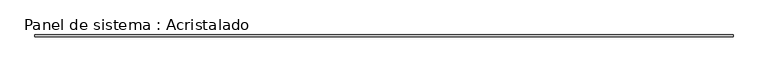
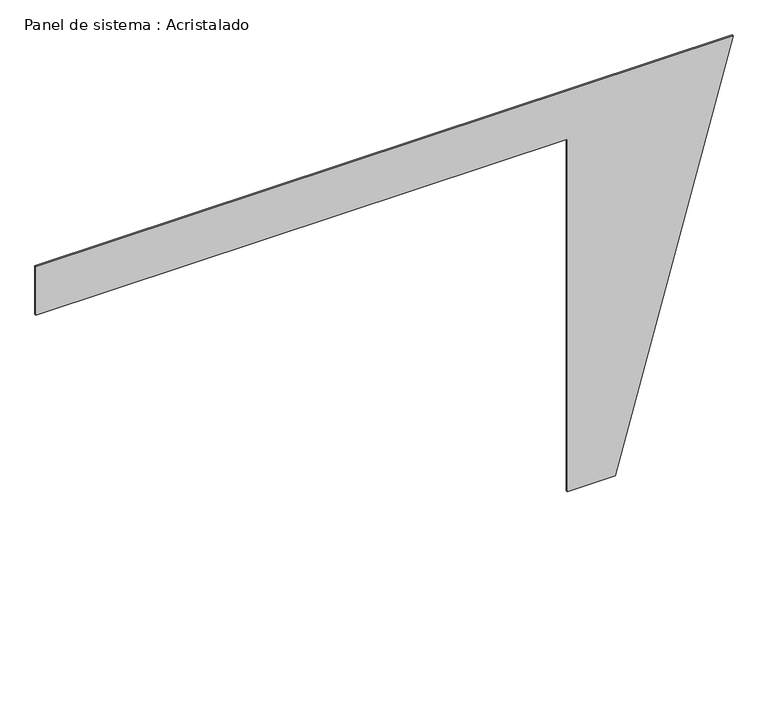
"""IFC4 building model written with IfcOpenShell, lengths in millimetres: plate geometry, Panel de sistema : Acristalado."""

import ifcopenshell
import ifcopenshell.guid

model = None  # the IFC model being written
_history = None  # IfcOwnerHistory: only IFC2X3 demands one
_inside = {}  # id of a spatial element -> (the spatial element, [elements in it])
_under = {}  # id of a project, library or spatial element -> (it, [spatial elements below it])
_declared = {}  # id of a project -> (the project, [libraries it declares])
_typed = {}  # id of a type object -> (the type object, [elements of that type])
_made_of = {}  # id of a material, layer set ... -> (it, [elements and type objects made of it])


def new_model(schema):
    """Start an empty IFC model of exactly this schema.

    Asked for "IFC4X3", IfcOpenShell would pick the latest addendum, in which some entities
    have other attributes; the version numbers below select the first issue.
    IFC2X3 requires an IfcOwnerHistory on every rooted entity: one is made here for all.
    """
    global model, _history
    if schema == "IFC4X3":
        model = ifcopenshell.file(schema_version=(4, 3, 0, 0))
    else:
        model = ifcopenshell.file(schema=schema)
    _inside.clear()
    _under.clear()
    _declared.clear()
    _typed.clear()
    _made_of.clear()
    _history = None
    if model.schema == "IFC2X3":
        org = make("IfcOrganization", Name="unknown")
        user = make(
            "IfcPersonAndOrganization",
            ThePerson=make("IfcPerson", FamilyName="unknown"),
            TheOrganization=org,
        )
        app = make(
            "IfcApplication",
            ApplicationDeveloper=org,
            Version="unknown",
            ApplicationFullName="unknown",
            ApplicationIdentifier="unknown",
        )
        _history = make(
            "IfcOwnerHistory",
            OwningUser=user,
            OwningApplication=app,
            ChangeAction="ADDED",
            CreationDate=0,
        )
    return model


def make(cls, **values):
    """One entity of the class cls with the attributes given. An attribute that is None is left unset."""
    return model.create_entity(
        cls, **{name: value for name, value in values.items() if value is not None}
    )


def rooted(cls, **values):
    """An entity with a GlobalId (a new one), such as an element, a storey or a relation."""
    return make(cls, GlobalId=ifcopenshell.guid.new(), OwnerHistory=_history, **values)


def si_unit(unit_type, name, prefix=None):
    """IfcSIUnit, for example si_unit("LENGTHUNIT", "METRE", prefix="MILLI")."""
    return make("IfcSIUnit", UnitType=unit_type, Prefix=prefix, Name=name)


def assignment(units):
    """IfcUnitAssignment: the units of a project."""
    return None if units is None else make("IfcUnitAssignment", Units=units)


def point(xyz):
    """IfcCartesianPoint."""
    return None if xyz is None else make("IfcCartesianPoint", Coordinates=xyz)


def direction(xyz):
    """IfcDirection."""
    return None if xyz is None else make("IfcDirection", DirectionRatios=xyz)


def frame(location, z_axis=None, x_axis=None):
    """IfcAxis2Placement3D, a coordinate frame: its origin and axes. An axis left out is left unset."""
    return make(
        "IfcAxis2Placement3D",
        Location=point(location),
        Axis=direction(z_axis),
        RefDirection=direction(x_axis),
    )


def origin():
    """The frame at (0, 0, 0) with its axes left unset."""
    return frame((0.0, 0.0, 0.0))


def place(relative_to, where):
    """IfcLocalPlacement: puts the frame where relative to a parent placement (None: the world)."""
    return make(
        "IfcLocalPlacement", PlacementRelTo=relative_to, RelativePlacement=where
    )


def context(
    kind, dimensions, precision=None, world=None, true_north=None, identifier=None
):
    """IfcGeometricRepresentationContext, for example the 3D "Model" context."""
    return make(
        "IfcGeometricRepresentationContext",
        ContextIdentifier=identifier,
        ContextType=kind,
        CoordinateSpaceDimension=dimensions,
        Precision=precision,
        WorldCoordinateSystem=world,
        TrueNorth=true_north,
    )


def project(units=None, contexts=None):
    """IfcProject with its units and contexts."""
    return rooted(
        "IfcProject",
        Name="project",
        RepresentationContexts=contexts,
        UnitsInContext=assignment(units),
    )


def spatial(cls, under=None, at=None, **own):
    """A site, building, storey or space (cls), placed at a placement, below another one or the project."""
    s = rooted(cls, ObjectPlacement=at, **own)
    if under is not None:
        _under.setdefault(under.id(), (under, []))[1].append(s)
    return s


def polyline(points):
    """IfcPolyline through the points."""
    return make("IfcPolyline", Points=[point(p) for p in points])


def outline(outer, holes=None, kind="AREA"):
    """IfcArbitraryClosedProfileDef: a profile drawn as a closed curve; with holes, ...WithVoids."""
    if holes is None:
        return make("IfcArbitraryClosedProfileDef", ProfileType=kind, OuterCurve=outer)
    return make(
        "IfcArbitraryProfileDefWithVoids",
        ProfileType=kind,
        OuterCurve=outer,
        InnerCurves=holes,
    )


def extrude(swept, where, along, depth):
    """IfcExtrudedAreaSolid: the profile swept, set in the frame where, extruded along a direction by depth."""
    return make(
        "IfcExtrudedAreaSolid",
        SweptArea=swept,
        Position=where,
        ExtrudedDirection=direction(along),
        Depth=depth,
    )


def shape(context_of_items, identifier, shape_type, items):
    """IfcShapeRepresentation: the items that make up one representation, for example the "Body"."""
    return make(
        "IfcShapeRepresentation",
        ContextOfItems=context_of_items,
        RepresentationIdentifier=identifier,
        RepresentationType=shape_type,
        Items=items,
    )


def source(mapping_origin, context_of_items, identifier, shape_type, items):
    """IfcRepresentationMap: a shape defined once, which mapped items show again and again."""
    return make(
        "IfcRepresentationMap",
        MappingOrigin=mapping_origin,
        MappedRepresentation=shape(context_of_items, identifier, shape_type, items),
    )


def transform(
    local_origin,
    x_axis=None,
    y_axis=None,
    z_axis=None,
    scale=None,
    scale2=None,
    scale3=None,
    uniform=True,
):
    """IfcCartesianTransformationOperator3D, or its non-uniform kind. x_axis, y_axis, z_axis: its Axis1, 2, 3."""
    if uniform:
        return make(
            "IfcCartesianTransformationOperator3D",
            Axis1=direction(x_axis),
            Axis2=direction(y_axis),
            LocalOrigin=point(local_origin),
            Scale=scale,
            Axis3=direction(z_axis),
        )
    return make(
        "IfcCartesianTransformationOperator3DnonUniform",
        Axis1=direction(x_axis),
        Axis2=direction(y_axis),
        LocalOrigin=point(local_origin),
        Scale=scale,
        Axis3=direction(z_axis),
        Scale2=scale2,
        Scale3=scale3,
    )


def mapped(mapping_source, mapping_target):
    """IfcMappedItem: shows the shape of a source again, moved by a transform."""
    return make(
        "IfcMappedItem", MappingSource=mapping_source, MappingTarget=mapping_target
    )


def made_of(thing, what):
    """Note that an element or type object is made of a material, layer set ...; save() writes the relation."""
    if what is not None:
        _made_of.setdefault(what.id(), (what, []))[1].append(thing)
    return thing


def element(
    cls,
    number,
    at=None,
    inside=None,
    cuts=None,
    type_object=None,
    material=None,
    context=None,
    identifier="Body",
    shape_type=None,
    held_by="IfcProductDefinitionShape",
    body=None,
    shapes=None,
    **own,
):
    """One element of the class cls, such as IfcWall. Its Tag is "e" and its number.

    at: its placement. inside: the storey or other place that contains it. cuts: it is an
    opening in that element (IfcRelVoidsElement). A single representation is given by context,
    identifier, shape_type and body (its items); several are given by shapes. held_by: the class
    of the entity that holds the representations. save() writes the other relations.
    """
    e = rooted(cls, Tag="e%d" % number, ObjectPlacement=at, **own)
    if body is not None:
        shapes = [shape(context, identifier, shape_type, body)]
    if shapes is not None:
        e.Representation = make(held_by, Representations=shapes)
    if inside is not None:
        _inside.setdefault(inside.id(), (inside, []))[1].append(e)
    if cuts is not None:
        rooted(
            "IfcRelVoidsElement", RelatingBuildingElement=cuts, RelatedOpeningElement=e
        )
    if type_object is not None:
        _typed.setdefault(type_object.id(), (type_object, []))[1].append(e)
    return made_of(e, material)


def aggregate(whole, parts):
    """IfcRelAggregates: a whole, such as a stair, and the parts it consists of."""
    return rooted("IfcRelAggregates", RelatingObject=whole, RelatedObjects=parts)


def save(model, path):
    """Write the relations noted so far, then the file.

    IfcRelAggregates (storeys below a building ...), IfcRelContainedInSpatialStructure (elements
    in a storey), IfcRelDefinesByType, IfcRelAssociatesMaterial and IfcRelDeclares: one each for
    every whole, place, type object, material and project.
    """
    for whole, parts in _under.values():
        aggregate(whole, parts)
    for where, things in _inside.values():
        rooted(
            "IfcRelContainedInSpatialStructure",
            RelatedElements=things,
            RelatingStructure=where,
        )
    for kind, things in _typed.values():
        rooted("IfcRelDefinesByType", RelatedObjects=things, RelatingType=kind)
    for what, things in _made_of.values():
        rooted("IfcRelAssociatesMaterial", RelatedObjects=things, RelatingMaterial=what)
    for by, libraries in _declared.values():
        rooted("IfcRelDeclares", RelatingContext=by, RelatedDefinitions=libraries)
    model.write(path)


def panel_de_sistema_acristalado_d726189f(model_context):
    return source(origin(), model_context, "Body", "SweptSolid", [
        extrude(outline(polyline([(0.0, 2110.2434291), (0.0, 2662.9110728), (4890.0, 4021.4961325), (4890.0, -4021.4961325), (4300.0, -4021.4961325), (4300.0, 2110.2434291), (0.0, 2110.2434291)])), frame((0.0, -10.0, 0.0), z_axis=(0.0, 1.0, 0.0), x_axis=(0.0, 0.0, 1.0)), (0.0, 0.0, 1.0), 20.0),
    ])


if __name__ == "__main__":
    model = new_model("IFC4")
    model_context = context("Model", 3, world=origin())
    ifc_project = project(units=[si_unit("LENGTHUNIT", "METRE", prefix="MILLI")], contexts=[model_context])
    site = spatial("IfcSite", under=ifc_project)
    building = spatial("IfcBuilding", under=site)
    placement = place(None, origin())
    panel_de_sistema_acristalado_shape = panel_de_sistema_acristalado_d726189f(model_context)
    element("IfcPlate", 1, ObjectType="Panel de sistema : Acristalado", at=placement, inside=building, context=model_context, shape_type="MappedRepresentation", body=[
        mapped(panel_de_sistema_acristalado_shape, transform((0.0, 0.0, 0.0), x_axis=(1.0, 0.0, 0.0), y_axis=(0.0, 1.0, 0.0), z_axis=(0.0, 0.0, 1.0))),
    ])
    save(model, "model.ifc")
